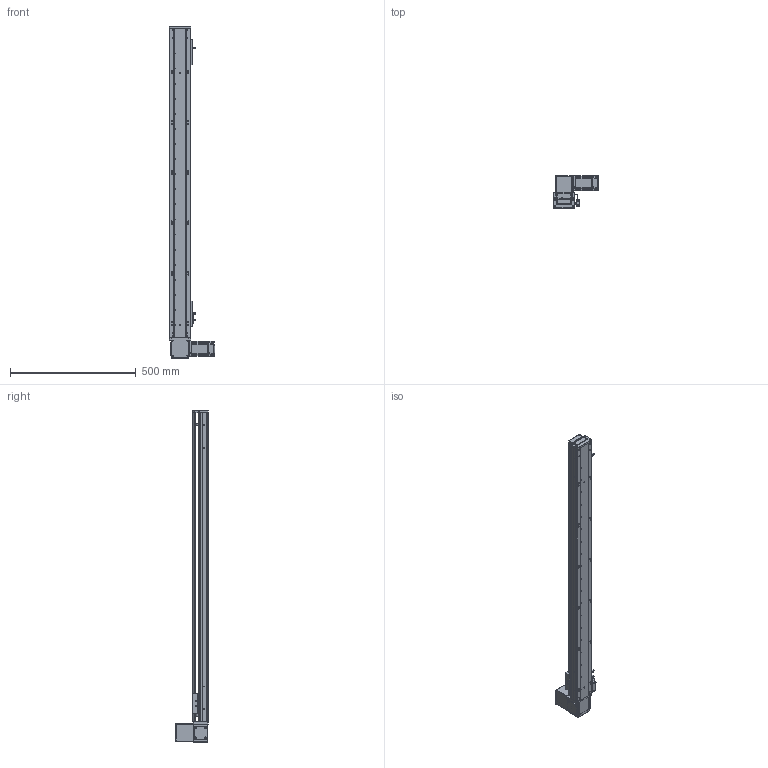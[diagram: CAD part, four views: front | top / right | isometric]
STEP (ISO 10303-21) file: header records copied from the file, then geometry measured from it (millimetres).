
FILE_DESCRIPTION (( 'STEP AP203' ), '1' );
FILE_NAME ('RY80-T-300-UR.SLDASM_1050.step', '2021-03-01T02:26:47', ( '盈信电脑' ), ( '东莞市道滘镇水果街19号' ), 'SwSTEP 2.0', 'SolidWorks 2012', '' );
FILE_SCHEMA (( 'CONFIG_CONTROL_DESIGN' ));
Products named in the file (20): RY80-T萇儂假蚾啣; RY80-T肮祭謫奻殏俋欶; RY80-T-300-UR.SLDASM_1050; RY80-T-M4蹟翐2; RY80-T-上下折同步轮盖板; 1; RY80-T翋肮祭謫裔啣; RY80-T粣創揤踡輸; RY100-T粣創揤踡裔; 滅袉蝶18-10; RY80-T肮祭湍揤輸2; RY80-T肮祭湍揤輸1; RY80-T-翋肮祭謫釱; 覜茼ん672; RY80俋离覜茼え; RY80-T綴裔啣; 672嫖萇羲壽假蚾釱; RY80-T-300-UR倰第奻裔啣_1050; RY80-T肮祭謫臏賑輸; RY80-T-300-UR倰第菁釱_1050
Assembly tree (23 placements, depth 2):
  RY80-T-300-UR.SLDASM_1050
    RY80-T-300-UR倰第菁釱_1050
    RY80-T肮祭謫臏賑輸
    RY80-T-300-UR倰第奻裔啣_1050
    RY80-T綴裔啣
    672嫖萇羲壽假蚾釱  x2
    覜茼ん672  x3
    RY80俋离覜茼え
    RY80-T-翋肮祭謫釱
    RY80-T肮祭湍揤輸1
    RY80-T肮祭湍揤輸2
    RY80-T粣創揤踡輸
    滅袉蝶18-10  x2
    RY100-T粣創揤踡裔
    RY80-T翋肮祭謫裔啣
    RY80-T-上下折同步轮盖板
    1
    RY80-T肮祭謫奻殏俋欶
    RY80-T-M4蹟翐2
    RY80-T萇儂假蚾啣
Bounding box: 180 x 130.5 x 1320 mm (x, y, z)
Volume: 2258097.5 mm3; surface area: 943296.1 mm2
Topology: 23 solids, 23 shells, 2452 faces, 6746 edges, 4382 vertices
Faces by surface type: plane 1329, cylinder 927, cone 140, bspline 56
Entity records: 77842 total; most frequent: CARTESIAN_POINT 18458, ORIENTED_EDGE 12136, DIRECTION 11508, EDGE_CURVE 6068, VERTEX_POINT 3986, AXIS2_PLACEMENT_3D 3868, VECTOR 3772, LINE 3772
